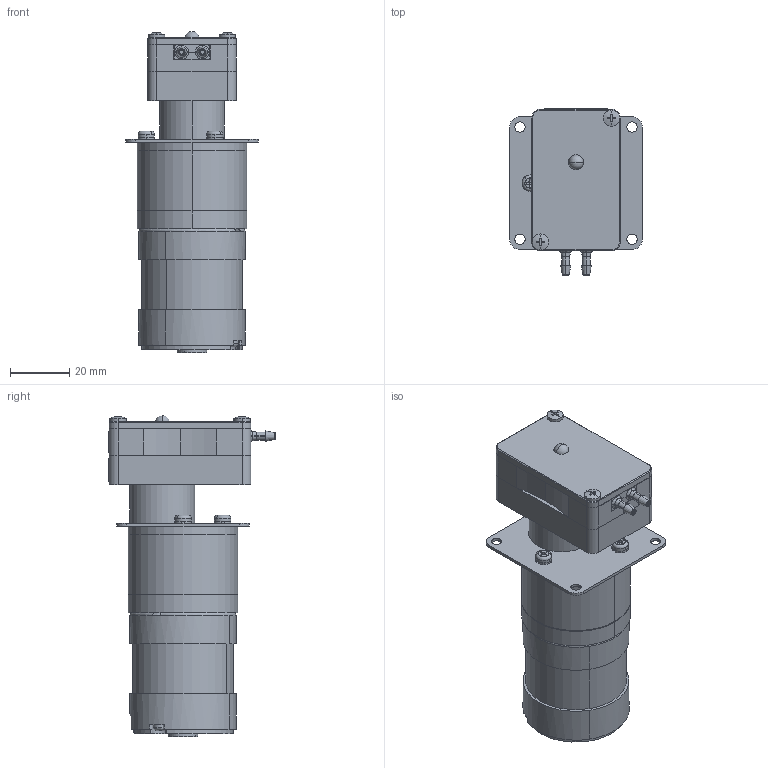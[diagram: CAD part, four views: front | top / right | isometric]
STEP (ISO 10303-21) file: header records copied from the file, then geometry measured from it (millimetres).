
FILE_DESCRIPTION (( 'STEP AP214' ), '1' );
FILE_NAME ('RP-H02S-10B-DC24VL_forWEB.STEP', '2023-11-01T06:20:06', ( '' ), ( '' ), 'SwSTEP 2.0', 'SolidWorks 2023', '' );
FILE_SCHEMA (( 'AUTOMOTIVE_DESIGN' ));
Length unit declared in the file: millimetre
Products named in the file (17): ROTOR; TP-3641AB; RIVETRS-STN-W4-8-forWEB_RIVETRS-STN-W4-8; RP-H02S-10B-DC24VL_forWEB_PumpHeadAssy; TP-3641BA,l; M26x10_Pタイト_CSPBDS2B-ST-TP2_6-10; MOTOR PLATE; hm_3-forWEB; TP3641AB_HM3; PUMP CASE -A_forWEB; RP-G3N_JOINER_R1_forWEB; RP-H02S-10B-DC24VL_forWEB; COVER; BASE_forWEB; MOTOR SCREW_P2; S9B-PH-SM4-TB; RP-H02S-10B-DC24VL_forWEB_PumpBassAssy
Assembly tree (21 placements, depth 5):
  RP-H02S-10B-DC24VL_forWEB
    RP-H02S-10B-DC24VL_forWEB_PumpBassAssy
      BASE_forWEB
      ROTOR
      TP3641AB_HM3
        hm_3-forWEB
        MOTOR PLATE
        MOTOR SCREW_P2  x3
        TP-3641AB
          TP-3641BA,l
          S9B-PH-SM4-TB
    RP-H02S-10B-DC24VL_forWEB_PumpHeadAssy
      RP-G3N_JOINER_R1_forWEB
      M26x10_Pタイト_CSPBDS2B-ST-TP2_6-10  x2
      RIVETRS-STN-W4-8-forWEB_RIVETRS-STN-W4-8  x3
      PUMP CASE -A_forWEB
      COVER
Bounding box: 45 x 56.5 x 108.8 mm (x, y, z)
Volume: 104427.3 mm3; surface area: 36230.2 mm2
Topology: 18 solids, 18 shells, 878 faces, 2235 edges, 1444 vertices
Faces by surface type: plane 412, cylinder 352, cone 57, torus 40, bspline 11, sphere 6
Entity records: 23569 total; most frequent: CARTESIAN_POINT 4486, DIRECTION 4092, ORIENTED_EDGE 3738, EDGE_CURVE 1869, AXIS2_PLACEMENT_3D 1522, VERTEX_POINT 1222, VECTOR 1048, LINE 1048
